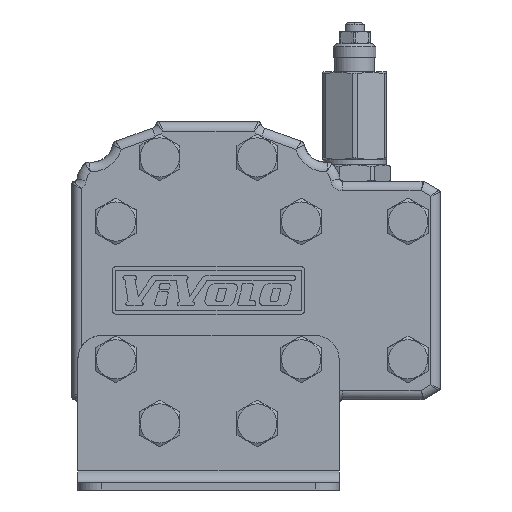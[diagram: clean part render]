
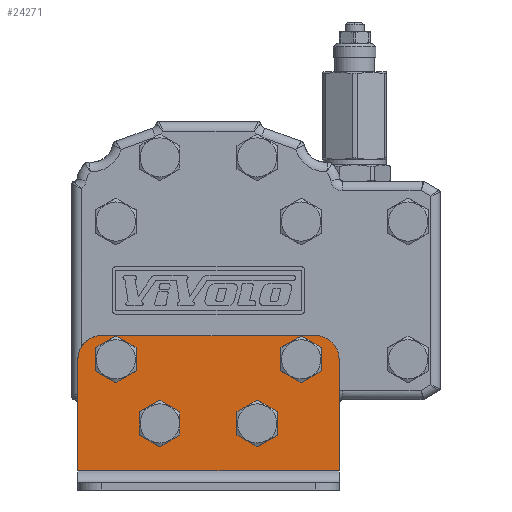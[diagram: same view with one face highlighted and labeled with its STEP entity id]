
A CAD part, front view. The second image highlights one B-rep face of the part: STEP entity #24271.
In plain terms, the highlighted planar face has unit normal (0, -1, 0).
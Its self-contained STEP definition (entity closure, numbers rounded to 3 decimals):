
#1237=CIRCLE('',#25462,8.);
#1238=CIRCLE('',#25464,8.);
#1239=CIRCLE('',#25466,8.);
#1240=CIRCLE('',#25468,8.);
#1259=CIRCLE('',#25520,10.);
#1260=CIRCLE('',#25521,10.);
#3333=ORIENTED_EDGE('',*,*,#7504,.T.);
#3334=ORIENTED_EDGE('',*,*,#7503,.T.);
#3335=ORIENTED_EDGE('',*,*,#7502,.T.);
#3336=ORIENTED_EDGE('',*,*,#7501,.T.);
#3337=ORIENTED_EDGE('',*,*,#7572,.T.);
#3338=ORIENTED_EDGE('',*,*,#7573,.T.);
#3339=ORIENTED_EDGE('',*,*,#7574,.T.);
#3340=ORIENTED_EDGE('',*,*,#7575,.T.);
#3341=ORIENTED_EDGE('',*,*,#7576,.F.);
#3342=ORIENTED_EDGE('',*,*,#7571,.F.);
#7501=EDGE_CURVE('',#9759,#9759,#1237,.T.);
#7502=EDGE_CURVE('',#9760,#9760,#1238,.T.);
#7503=EDGE_CURVE('',#9761,#9761,#1239,.T.);
#7504=EDGE_CURVE('',#9762,#9762,#1240,.T.);
#7571=EDGE_CURVE('',#9807,#9806,#11320,.T.);
#7572=EDGE_CURVE('',#9807,#9808,#11321,.T.);
#7573=EDGE_CURVE('',#9808,#9809,#1259,.T.);
#7574=EDGE_CURVE('',#9809,#9810,#11322,.T.);
#7575=EDGE_CURVE('',#9810,#9811,#1260,.T.);
#7576=EDGE_CURVE('',#9806,#9811,#11323,.T.);
#9759=VERTEX_POINT('',#37057);
#9760=VERTEX_POINT('',#37060);
#9761=VERTEX_POINT('',#37063);
#9762=VERTEX_POINT('',#37066);
#9806=VERTEX_POINT('',#37207);
#9807=VERTEX_POINT('',#37209);
#9808=VERTEX_POINT('',#37213);
#9809=VERTEX_POINT('',#37215);
#9810=VERTEX_POINT('',#37217);
#9811=VERTEX_POINT('',#37219);
#11320=LINE('',#37210,#12568);
#11321=LINE('',#37212,#12569);
#11322=LINE('',#37216,#12570);
#11323=LINE('',#37220,#12571);
#12568=VECTOR('',#28258,1000.);
#12569=VECTOR('',#28261,1000.);
#12570=VECTOR('',#28264,1000.);
#12571=VECTOR('',#28267,1000.);
#13744=EDGE_LOOP('',(#3333));
#13745=EDGE_LOOP('',(#3334));
#13746=EDGE_LOOP('',(#3335));
#13747=EDGE_LOOP('',(#3336));
#13748=EDGE_LOOP('',(#3337,#3338,#3339,#3340,#3341,#3342));
#15011=FACE_BOUND('',#13744,.T.);
#15012=FACE_BOUND('',#13745,.T.);
#15013=FACE_BOUND('',#13746,.T.);
#15014=FACE_BOUND('',#13747,.T.);
#15015=FACE_BOUND('',#13748,.T.);
#16106=PLANE('',#25519);
#24271=ADVANCED_FACE('',(#15011,#15012,#15013,#15014,#15015),#16106,.T.);
#25462=AXIS2_PLACEMENT_3D('',#37056,#28096,#28097);
#25464=AXIS2_PLACEMENT_3D('',#37059,#28100,#28101);
#25466=AXIS2_PLACEMENT_3D('',#37062,#28104,#28105);
#25468=AXIS2_PLACEMENT_3D('',#37065,#28108,#28109);
#25519=AXIS2_PLACEMENT_3D('',#37211,#28259,#28260);
#25520=AXIS2_PLACEMENT_3D('',#37214,#28262,#28263);
#25521=AXIS2_PLACEMENT_3D('',#37218,#28265,#28266);
#28096=DIRECTION('',(0.,1.,0.));
#28097=DIRECTION('',(0.,0.,1.));
#28100=DIRECTION('',(0.,1.,0.));
#28101=DIRECTION('',(0.,0.,1.));
#28104=DIRECTION('',(0.,1.,0.));
#28105=DIRECTION('',(0.,0.,1.));
#28108=DIRECTION('',(0.,1.,0.));
#28109=DIRECTION('',(0.,0.,1.));
#28258=DIRECTION('',(-1.,0.,0.));
#28259=DIRECTION('',(0.,-1.,0.));
#28260=DIRECTION('',(0.,0.,-1.));
#28261=DIRECTION('',(0.,0.,1.));
#28262=DIRECTION('',(0.,-1.,0.));
#28263=DIRECTION('',(0.,0.,-1.));
#28264=DIRECTION('',(-1.,0.,0.));
#28265=DIRECTION('',(0.,-1.,0.));
#28266=DIRECTION('',(0.,0.,-1.));
#28267=DIRECTION('',(0.,0.,1.));
#37056=CARTESIAN_POINT('',(20.5,-63.,-56.));
#37057=CARTESIAN_POINT('',(20.5,-63.,-48.));
#37059=CARTESIAN_POINT('',(-20.5,-63.,-56.));
#37060=CARTESIAN_POINT('',(-20.5,-63.,-48.));
#37062=CARTESIAN_POINT('',(-39.,-63.,-29.));
#37063=CARTESIAN_POINT('',(-39.,-63.,-21.));
#37065=CARTESIAN_POINT('',(39.,-63.,-29.));
#37066=CARTESIAN_POINT('',(39.,-63.,-21.));
#37207=CARTESIAN_POINT('',(-55.,-63.,-76.));
#37209=CARTESIAN_POINT('',(55.,-63.,-76.));
#37210=CARTESIAN_POINT('',(55.,-63.,-76.));
#37211=CARTESIAN_POINT('',(55.,-63.,-76.));
#37212=CARTESIAN_POINT('',(55.,-63.,-76.));
#37213=CARTESIAN_POINT('',(55.,-63.,-29.));
#37214=CARTESIAN_POINT('',(45.,-63.,-29.));
#37215=CARTESIAN_POINT('',(45.,-63.,-19.));
#37216=CARTESIAN_POINT('',(55.,-63.,-19.));
#37217=CARTESIAN_POINT('',(-45.,-63.,-19.));
#37218=CARTESIAN_POINT('',(-45.,-63.,-29.));
#37219=CARTESIAN_POINT('',(-55.,-63.,-29.));
#37220=CARTESIAN_POINT('',(-55.,-63.,-76.));
